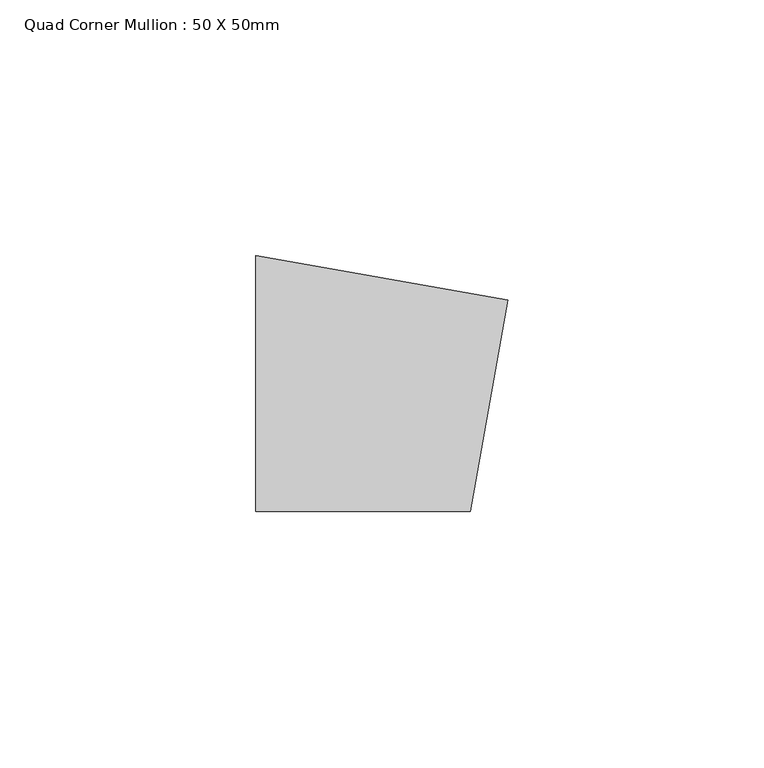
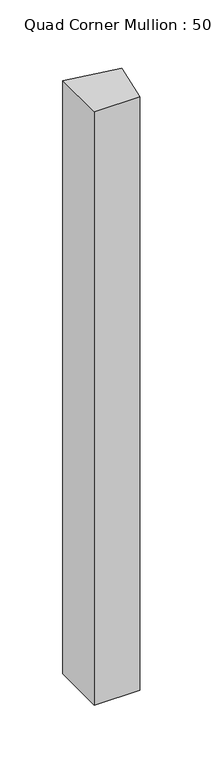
"""IFC4 building model written with IfcOpenShell, lengths in millimetres: member geometry, Quad Corner Mullion : 50 X 50mm."""

from ifc_helpers import new_model, si_unit, frame, origin, place, context, project, spatial, polyline, outline, extrude, source, transform, mapped, element, save


def quad_corner_mullion_50_x_50mm_c1b02802(model_context):
    return source(origin(), model_context, "Body", "SweptSolid", [
        extrude(outline(polyline([(28.2628969, 16.3175911), (20.9774908, -25.0), (-20.9774908, -25.0), (-20.9774908, 25.0), (28.2628969, 16.3175911)])), frame((0.0, 0.0, -576.7729569), z_axis=(0.0, 0.0, 1.0), x_axis=(1.0, 0.0, 0.0)), (0.0, 0.0, 1.0), 576.7729569),
    ])


if __name__ == "__main__":
    model = new_model("IFC4")
    model_context = context("Model", 3, world=origin())
    ifc_project = project(units=[si_unit("LENGTHUNIT", "METRE", prefix="MILLI")], contexts=[model_context])
    site = spatial("IfcSite", under=ifc_project)
    building = spatial("IfcBuilding", under=site)
    placement = place(None, origin())
    quad_corner_mullion_50_x_50mm_shape = quad_corner_mullion_50_x_50mm_c1b02802(model_context)
    element("IfcMember", 1, ObjectType="Quad Corner Mullion : 50 X 50mm", at=placement, inside=building, context=model_context, shape_type="MappedRepresentation", body=[
        mapped(quad_corner_mullion_50_x_50mm_shape, transform((0.0, 0.0, 0.0), x_axis=(1.0, 0.0, 0.0), y_axis=(0.0, 1.0, 0.0), z_axis=(0.0, 0.0, 1.0))),
    ])
    save(model, "model.ifc")
